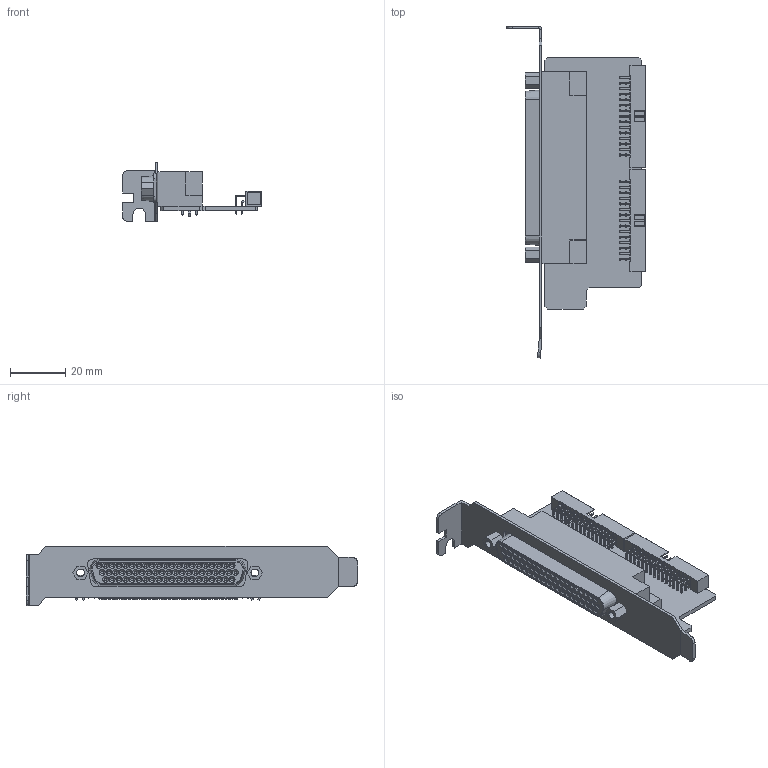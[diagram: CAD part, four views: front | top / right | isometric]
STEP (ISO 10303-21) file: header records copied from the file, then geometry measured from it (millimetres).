
FILE_DESCRIPTION (( 'STEP AP203' ), '1' );
FILE_NAME ('3Dͼֽ P62F-P60 V1.0.STEP', '2022-09-30T03:28:53', ( 'Microsoft' ), ( 'Microsoft' ), 'SwSTEP 2.0', 'SolidWorks 2020', '' );
FILE_SCHEMA (( 'CONFIG_CONTROL_DESIGN' ));
Length unit declared in the file: millimetre
Products named in the file (3): P62F-P60 V1.0; 3Dͼֽ P62F-P60 V1.0; P62F-P60結啣
Assembly tree (2 placements, depth 2):
  3Dͼֽ P62F-P60 V1.0
    P62F-P60結啣
    P62F-P60 V1.0
Bounding box: 50.23 x 120.08 x 21.5 mm (x, y, z)
Volume: 1740.6 mm3; surface area: 22439.2 mm2
Topology: 1 solids, 6 shells, 1981 faces, 5664 edges, 3665 vertices
Faces by surface type: plane 1293, cylinder 477, cone 128, sphere 42, bspline 41
Entity records: 70423 total; most frequent: CARTESIAN_POINT 17875, DIRECTION 10858, ORIENTED_EDGE 10050, EDGE_CURVE 5622, VECTOR 4114, LINE 4114, VERTEX_POINT 3665, AXIS2_PLACEMENT_3D 3372
